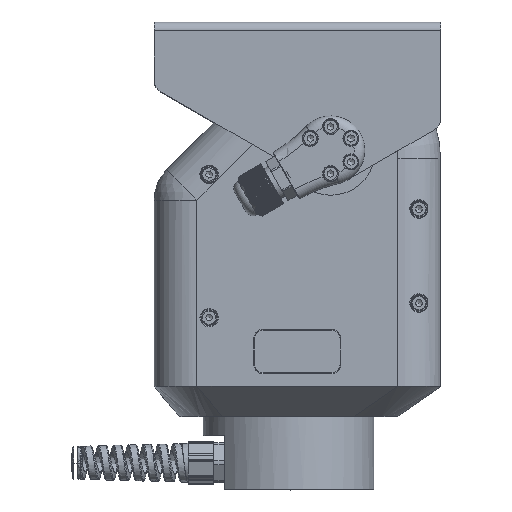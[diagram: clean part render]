
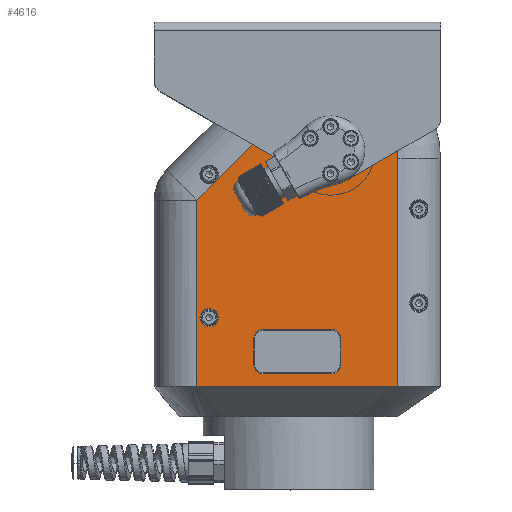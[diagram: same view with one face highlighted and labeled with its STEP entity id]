
A CAD part, top view. The second image highlights one B-rep face of the part: STEP entity #4616.
In plain terms, the highlighted planar face has unit normal (0, 0, 1) as drawn and (0, 1, 0) by its records, which use the part's own axes.
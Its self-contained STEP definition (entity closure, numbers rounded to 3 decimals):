
#4616=ADVANCED_FACE('',(#26199,#26201,#26203,#26205),#26207,.F.);
#26199=FACE_BOUND('',#26200,.T.);
#26200=EDGE_LOOP('',(#42298,#42299,#42300,#42301,#42302,#42303,#42304));
#26201=FACE_BOUND('',#26202,.T.);
#26202=EDGE_LOOP('',(#42305));
#26203=FACE_BOUND('',#26204,.T.);
#26204=EDGE_LOOP('',(#42306));
#26205=FACE_BOUND('',#26206,.T.);
#26206=EDGE_LOOP('',(#42307,#42308,#42309,#42310,#42311,#42312,#42313,#42314));
#26207=PLANE('',#26208);
#26208=AXIS2_PLACEMENT_3D('',#26209,#26210,#26211);
#26209=CARTESIAN_POINT('',(50.583,67.,-69.385));
#26210=DIRECTION('',(0.,-1.,0.));
#26211=DIRECTION('',(0.,0.,-1.));
#42298=ORIENTED_EDGE('',*,*,#53344,.F.);
#42299=ORIENTED_EDGE('',*,*,#53345,.T.);
#42300=ORIENTED_EDGE('',*,*,#53346,.F.);
#42301=ORIENTED_EDGE('',*,*,#53347,.F.);
#42302=ORIENTED_EDGE('',*,*,#53348,.F.);
#42303=ORIENTED_EDGE('',*,*,#53349,.F.);
#42304=ORIENTED_EDGE('',*,*,#53350,.F.);
#42305=ORIENTED_EDGE('',*,*,#53351,.F.);
#42306=ORIENTED_EDGE('',*,*,#53352,.T.);
#42307=ORIENTED_EDGE('',*,*,#53312,.F.);
#42308=ORIENTED_EDGE('',*,*,#53316,.F.);
#42309=ORIENTED_EDGE('',*,*,#53319,.F.);
#42310=ORIENTED_EDGE('',*,*,#53322,.F.);
#42311=ORIENTED_EDGE('',*,*,#53325,.F.);
#42312=ORIENTED_EDGE('',*,*,#53328,.F.);
#42313=ORIENTED_EDGE('',*,*,#53331,.F.);
#42314=ORIENTED_EDGE('',*,*,#53333,.F.);
#53312=EDGE_CURVE('',#59603,#59605,#59606,.T.);
#53316=EDGE_CURVE('',#59611,#59603,#59613,.T.);
#53319=EDGE_CURVE('',#59616,#59611,#59618,.T.);
#53322=EDGE_CURVE('',#59621,#59616,#59623,.T.);
#53325=EDGE_CURVE('',#59626,#59621,#59628,.T.);
#53328=EDGE_CURVE('',#59631,#59626,#59633,.T.);
#53331=EDGE_CURVE('',#59636,#59631,#59638,.T.);
#53333=EDGE_CURVE('',#59605,#59636,#59640,.T.);
#53344=EDGE_CURVE('',#59656,#59657,#59658,.T.);
#53345=EDGE_CURVE('',#59656,#59659,#59660,.T.);
#53346=EDGE_CURVE('',#59661,#59659,#59662,.T.);
#53347=EDGE_CURVE('',#59663,#59661,#59664,.T.);
#53348=EDGE_CURVE('',#59665,#59663,#59666,.T.);
#53349=EDGE_CURVE('',#59667,#59665,#59668,.T.);
#53350=EDGE_CURVE('',#59657,#59667,#59669,.T.);
#53351=EDGE_CURVE('',#59670,#59670,#59671,.T.);
#53352=EDGE_CURVE('',#59672,#59672,#59673,.T.);
#59603=VERTEX_POINT('',#75095);
#59605=VERTEX_POINT('',#75099);
#59606=CIRCLE('',#75100,4.4);
#59611=VERTEX_POINT('',#75113);
#59613=LINE('',#75117,#75118);
#59616=VERTEX_POINT('',#75124);
#59618=CIRCLE('',#75128,4.4);
#59621=VERTEX_POINT('',#75137);
#59623=LINE('',#75141,#75142);
#59626=VERTEX_POINT('',#75148);
#59628=CIRCLE('',#75152,4.4);
#59631=VERTEX_POINT('',#75161);
#59633=LINE('',#75165,#75166);
#59636=VERTEX_POINT('',#75172);
#59638=CIRCLE('',#75176,4.4);
#59640=LINE('',#75184,#75185);
#59656=VERTEX_POINT('',#75224);
#59657=VERTEX_POINT('',#75225);
#59658=LINE('',#75226,#75227);
#59659=VERTEX_POINT('',#75229);
#59660=LINE('',#75230,#75231);
#59661=VERTEX_POINT('',#75233);
#59662=LINE('',#75234,#75235);
#59663=VERTEX_POINT('',#75237);
#59664=CIRCLE('',#75238,27.7);
#59665=VERTEX_POINT('',#75242);
#59666=LINE('',#75243,#75244);
#59667=VERTEX_POINT('',#75246);
#59668=CIRCLE('',#75247,27.7);
#59669=LINE('',#75251,#75252);
#59670=VERTEX_POINT('',#75254);
#59671=CIRCLE('',#75255,4.3);
#59672=VERTEX_POINT('',#75259);
#59673=CIRCLE('',#75260,15.);
#75095=CARTESIAN_POINT('',(65.219,67.,-18.4));
#75099=CARTESIAN_POINT('',(69.619,67.,-22.8));
#75100=AXIS2_PLACEMENT_3D('',#75101,#75102,#75103);
#75101=CARTESIAN_POINT('',(65.219,67.,-22.8));
#75102=DIRECTION('',(0.,1.,0.));
#75103=DIRECTION('',(0.,0.,1.));
#75113=CARTESIAN_POINT('',(33.219,67.,-18.4));
#75117=CARTESIAN_POINT('',(33.219,67.,-18.4));
#75118=VECTOR('',#75119,1.);
#75119=DIRECTION('',(1.,0.,0.));
#75124=CARTESIAN_POINT('',(28.819,67.,-22.8));
#75128=AXIS2_PLACEMENT_3D('',#75129,#75130,#75131);
#75129=CARTESIAN_POINT('',(33.219,67.,-22.8));
#75130=DIRECTION('',(0.,1.,0.));
#75131=DIRECTION('',(-1.,0.,0.));
#75137=CARTESIAN_POINT('',(28.819,67.,-34.8));
#75141=CARTESIAN_POINT('',(28.819,67.,-34.8));
#75142=VECTOR('',#75143,1.);
#75143=DIRECTION('',(0.,0.,1.));
#75148=CARTESIAN_POINT('',(33.219,67.,-39.2));
#75152=AXIS2_PLACEMENT_3D('',#75153,#75154,#75155);
#75153=CARTESIAN_POINT('',(33.219,67.,-34.8));
#75154=DIRECTION('',(0.,1.,0.));
#75155=DIRECTION('',(0.,0.,-1.));
#75161=CARTESIAN_POINT('',(65.219,67.,-39.2));
#75165=CARTESIAN_POINT('',(65.219,67.,-39.2));
#75166=VECTOR('',#75167,1.);
#75167=DIRECTION('',(-1.,0.,0.));
#75172=CARTESIAN_POINT('',(69.619,67.,-34.8));
#75176=AXIS2_PLACEMENT_3D('',#75177,#75178,#75179);
#75177=CARTESIAN_POINT('',(65.219,67.,-34.8));
#75178=DIRECTION('',(0.,1.,0.));
#75179=DIRECTION('',(1.,0.,0.));
#75184=CARTESIAN_POINT('',(69.619,67.,-22.8));
#75185=VECTOR('',#75186,1.);
#75186=DIRECTION('',(0.,0.,-1.));
#75224=CARTESIAN_POINT('',(2.219,67.,-12.5));
#75225=CARTESIAN_POINT('',(2.219,67.,-99.674));
#75226=CARTESIAN_POINT('',(2.219,67.,-12.5));
#75227=VECTOR('',#75228,1.);
#75228=DIRECTION('',(0.,0.,-1.));
#75229=CARTESIAN_POINT('',(96.219,67.,-12.5));
#75230=CARTESIAN_POINT('',(2.219,67.,-12.5));
#75231=VECTOR('',#75232,1.);
#75232=DIRECTION('',(1.,0.,0.));
#75233=CARTESIAN_POINT('',(96.219,67.,-119.2));
#75234=CARTESIAN_POINT('',(96.219,67.,-119.2));
#75235=VECTOR('',#75236,1.);
#75236=DIRECTION('',(0.,0.,1.));
#75237=CARTESIAN_POINT('',(88.106,67.,-138.787));
#75238=AXIS2_PLACEMENT_3D('',#75239,#75240,#75241);
#75239=CARTESIAN_POINT('',(68.519,67.,-119.2));
#75240=DIRECTION('',(0.,-1.,0.));
#75241=DIRECTION('',(0.707,0.,-0.707));
#75242=CARTESIAN_POINT('',(84.306,67.,-142.587));
#75243=CARTESIAN_POINT('',(84.306,67.,-142.587));
#75244=VECTOR('',#75245,1.);
#75245=DIRECTION('',(0.707,0.,0.707));
#75246=CARTESIAN_POINT('',(45.132,67.,-142.587));
#75247=AXIS2_PLACEMENT_3D('',#75248,#75249,#75250);
#75248=CARTESIAN_POINT('',(64.719,67.,-123.));
#75249=DIRECTION('',(0.,-1.,0.));
#75250=DIRECTION('',(-0.707,0.,-0.707));
#75251=CARTESIAN_POINT('',(2.219,67.,-99.674));
#75252=VECTOR('',#75253,1.);
#75253=DIRECTION('',(0.707,0.,-0.707));
#75254=CARTESIAN_POINT('',(12.212,67.,-44.65));
#75255=AXIS2_PLACEMENT_3D('',#75256,#75257,#75258);
#75256=CARTESIAN_POINT('',(7.912,67.,-44.65));
#75257=DIRECTION('',(0.,1.,0.));
#75258=DIRECTION('',(1.,0.,0.));
#75259=CARTESIAN_POINT('',(79.762,67.,-123.));
#75260=AXIS2_PLACEMENT_3D('',#75261,#75262,#75263);
#75261=CARTESIAN_POINT('',(64.762,67.,-123.));
#75262=DIRECTION('',(0.,-1.,0.));
#75263=DIRECTION('',(1.,0.,0.));
